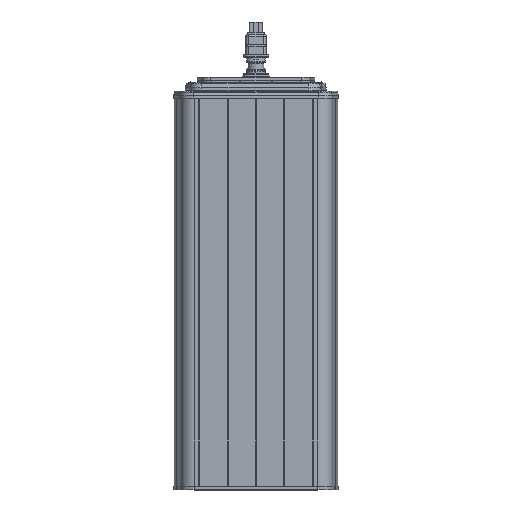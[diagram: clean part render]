
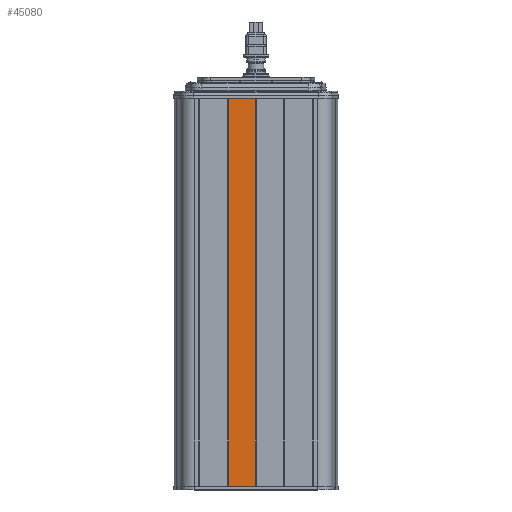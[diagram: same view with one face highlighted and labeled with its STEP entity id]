
A CAD part, top view. The second image highlights one B-rep face of the part: STEP entity #45080.
In plain terms, the highlighted planar face has unit normal (0, 0, 1).
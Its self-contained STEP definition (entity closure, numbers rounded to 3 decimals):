
#37613=DIRECTION('',(0.,-1.,0.));
#37614=VECTOR('',#37613,329.);
#37615=CARTESIAN_POINT('',(-23.5,130.,69.2));
#37616=LINE('',#37615,#37614);
#37626=DIRECTION('',(-1.,0.,0.));
#37627=VECTOR('',#37626,23.);
#37628=CARTESIAN_POINT('',(-0.5,130.,69.2));
#37629=LINE('',#37628,#37627);
#37630=DIRECTION('',(-1.,0.,0.));
#37631=VECTOR('',#37630,23.);
#37632=CARTESIAN_POINT('',(-0.5,-199.,69.2));
#37633=LINE('',#37632,#37631);
#37648=DIRECTION('',(0.,1.,0.));
#37649=VECTOR('',#37648,329.);
#37650=CARTESIAN_POINT('',(-0.5,-199.,69.2));
#37651=LINE('',#37650,#37649);
#40770=CARTESIAN_POINT('',(-0.5,-199.,69.2));
#40771=CARTESIAN_POINT('',(-23.5,-199.,69.2));
#40772=VERTEX_POINT('',#40770);
#40773=VERTEX_POINT('',#40771);
#41110=CARTESIAN_POINT('',(-0.5,130.,69.2));
#41111=CARTESIAN_POINT('',(-23.5,130.,69.2));
#41112=VERTEX_POINT('',#41110);
#41113=VERTEX_POINT('',#41111);
#45067=CARTESIAN_POINT('',(-12.,-34.,69.2));
#45068=DIRECTION('',(0.,0.,1.));
#45069=DIRECTION('',(-1.,0.,0.));
#45070=AXIS2_PLACEMENT_3D('',#45067,#45068,#45069);
#45071=PLANE('',#45070);
#45072=ORIENTED_EDGE('',*,*,#44151,.F.);
#45074=ORIENTED_EDGE('',*,*,#45073,.F.);
#45076=ORIENTED_EDGE('',*,*,#45075,.T.);
#45077=ORIENTED_EDGE('',*,*,#45052,.F.);
#45078=EDGE_LOOP('',(#45072,#45074,#45076,#45077));
#45079=FACE_OUTER_BOUND('',#45078,.F.);
#45080=ADVANCED_FACE('',(#45079),#45071,.T.);
#44151=EDGE_CURVE('',#41112,#41113,#37629,.T.);
#45052=EDGE_CURVE('',#41113,#40773,#37616,.T.);
#45073=EDGE_CURVE('',#40772,#41112,#37651,.T.);
#45075=EDGE_CURVE('',#40772,#40773,#37633,.T.);
